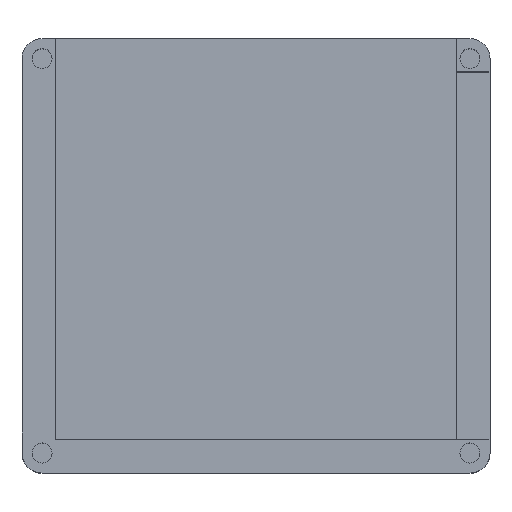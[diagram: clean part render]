
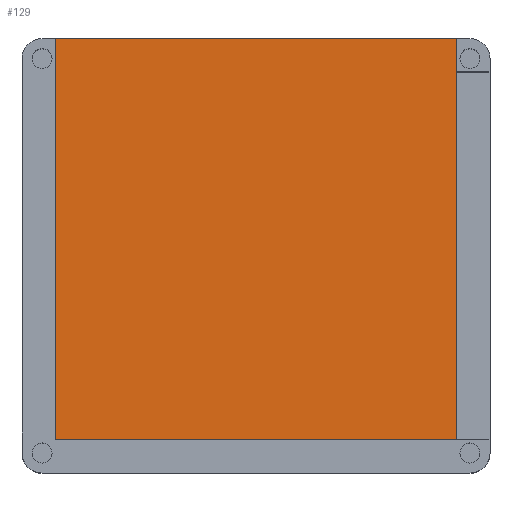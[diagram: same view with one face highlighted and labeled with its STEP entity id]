
A CAD part, top view. The second image highlights one B-rep face of the part: STEP entity #129.
In plain terms, the highlighted planar face has unit normal (0, 0, 1).
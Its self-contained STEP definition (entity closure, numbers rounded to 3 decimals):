
#58=CARTESIAN_POINT('',(5.,65.,3.));
#59=VERTEX_POINT('',#58);
#66=CARTESIAN_POINT('',(65.,65.,3.));
#67=VERTEX_POINT('',#66);
#68=CARTESIAN_POINT('',(65.,65.,3.));
#69=DIRECTION('',(-1.,-0.,0.));
#70=VECTOR('',#69,60.);
#71=LINE('',#68,#70);
#72=EDGE_CURVE('',#67,#59,#71,.T.);
#99=CARTESIAN_POINT('',(0.,0.,3.));
#100=DIRECTION('',(0.,0.,1.));
#101=DIRECTION('',(1.,0.,0.));
#102=AXIS2_PLACEMENT_3D('',#99,#100,#101);
#103=PLANE('',#102);
#104=CARTESIAN_POINT('',(5.,5.,3.));
#105=VERTEX_POINT('',#104);
#106=CARTESIAN_POINT('',(65.,5.,3.));
#107=VERTEX_POINT('',#106);
#108=CARTESIAN_POINT('',(5.,5.,3.));
#109=DIRECTION('',(1.,0.,-0.));
#110=VECTOR('',#109,60.);
#111=LINE('',#108,#110);
#112=EDGE_CURVE('',#105,#107,#111,.T.);
#113=ORIENTED_EDGE('',*,*,#112,.T.);
#114=CARTESIAN_POINT('',(65.,5.,3.));
#115=DIRECTION('',(0.,1.,0.));
#116=VECTOR('',#115,60.);
#117=LINE('',#114,#116);
#118=EDGE_CURVE('',#107,#67,#117,.T.);
#119=ORIENTED_EDGE('',*,*,#118,.T.);
#120=ORIENTED_EDGE('',*,*,#72,.T.);
#121=CARTESIAN_POINT('',(5.,65.,3.));
#122=DIRECTION('',(-0.,-1.,0.));
#123=VECTOR('',#122,60.);
#124=LINE('',#121,#123);
#125=EDGE_CURVE('',#59,#105,#124,.T.);
#126=ORIENTED_EDGE('',*,*,#125,.T.);
#127=EDGE_LOOP('',(#113,#119,#120,#126));
#128=FACE_BOUND('',#127,.T.);
#129=ADVANCED_FACE('',(#128),#103,.T.);
